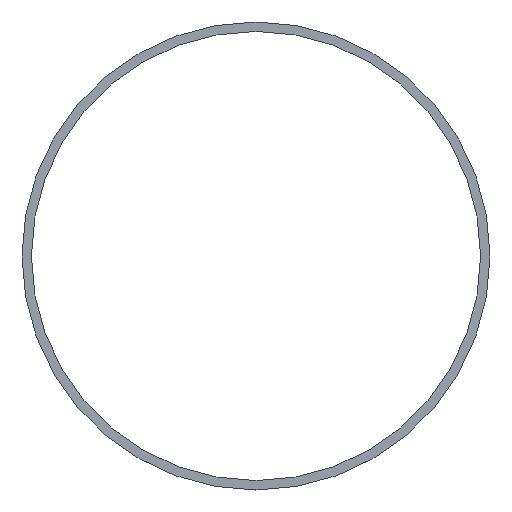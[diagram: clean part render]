
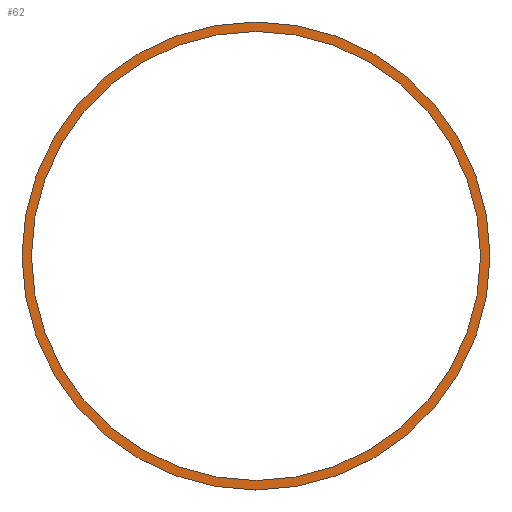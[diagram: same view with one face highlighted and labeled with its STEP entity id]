
A CAD part, top view. The second image highlights one B-rep face of the part: STEP entity #62.
In plain terms, the highlighted planar face has unit normal (0, 0, 1).
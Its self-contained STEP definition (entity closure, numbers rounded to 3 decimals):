
#15=FACE_BOUND('',#25,.T.);
#17=PLANE('',#82);
#20=FACE_OUTER_BOUND('',#24,.T.);
#24=EDGE_LOOP('',(#51));
#25=EDGE_LOOP('',(#52));
#33=CIRCLE('',#80,19.8);
#35=CIRCLE('',#83,19.);
#37=VERTEX_POINT('',#109);
#39=VERTEX_POINT('',#115);
#41=EDGE_CURVE('',#37,#37,#33,.T.);
#44=EDGE_CURVE('',#39,#39,#35,.T.);
#51=ORIENTED_EDGE('',*,*,#41,.T.);
#52=ORIENTED_EDGE('',*,*,#44,.F.);
#62=ADVANCED_FACE('',(#20,#15),#17,.T.);
#80=AXIS2_PLACEMENT_3D('',#110,#91,#92);
#82=AXIS2_PLACEMENT_3D('',#114,#96,#97);
#83=AXIS2_PLACEMENT_3D('',#116,#98,#99);
#91=DIRECTION('center_axis',(0.,0.,1.));
#92=DIRECTION('ref_axis',(1.,0.,0.));
#96=DIRECTION('center_axis',(0.,0.,1.));
#97=DIRECTION('ref_axis',(1.,0.,0.));
#98=DIRECTION('center_axis',(0.,0.,1.));
#99=DIRECTION('ref_axis',(1.,0.,0.));
#109=CARTESIAN_POINT('',(-19.8,42.,-2.5));
#110=CARTESIAN_POINT('Origin',(0.,42.,-2.5));
#114=CARTESIAN_POINT('Origin',(0.,42.,-2.5));
#115=CARTESIAN_POINT('',(-19.,42.,-2.5));
#116=CARTESIAN_POINT('Origin',(0.,42.,-2.5));
